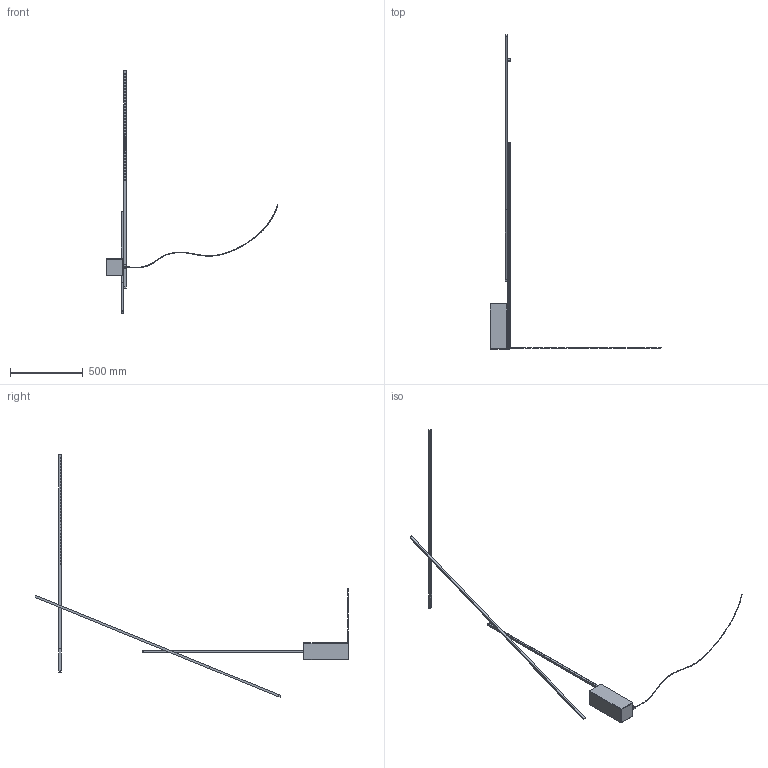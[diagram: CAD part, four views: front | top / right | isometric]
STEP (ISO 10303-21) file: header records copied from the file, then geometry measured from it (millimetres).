
FILE_DESCRIPTION (( 'STEP AP203' ), '1' );
FILE_NAME ('FLMLNN21_FLAMINGO.STEP', '2025-11-17T15:32:54', ( '' ), ( '' ), 'SwSTEP 2.0', 'SolidWorks 2016', '' );
FILE_SCHEMA (( 'CONFIG_CONTROL_DESIGN' ));
Length unit declared in the file: millimetre
Products named in the file (1): FLMLNN21_FLAMINGO
Bounding box: 1177.54 x 2152.31 x 1666.01 mm (x, y, z)
Volume: 4950120.8 mm3; surface area: 539551.5 mm2
Topology: 6 solids, 6 shells, 403 faces, 913 edges, 563 vertices
Faces by surface type: plane 247, cylinder 136, sphere 8, cone 6, torus 4, bspline 2
Entity records: 12239 total; most frequent: CARTESIAN_POINT 2984, DIRECTION 1986, ORIENTED_EDGE 1810, EDGE_CURVE 905, AXIS2_PLACEMENT_3D 693, LINE 600, VECTOR 600, VERTEX_POINT 563
